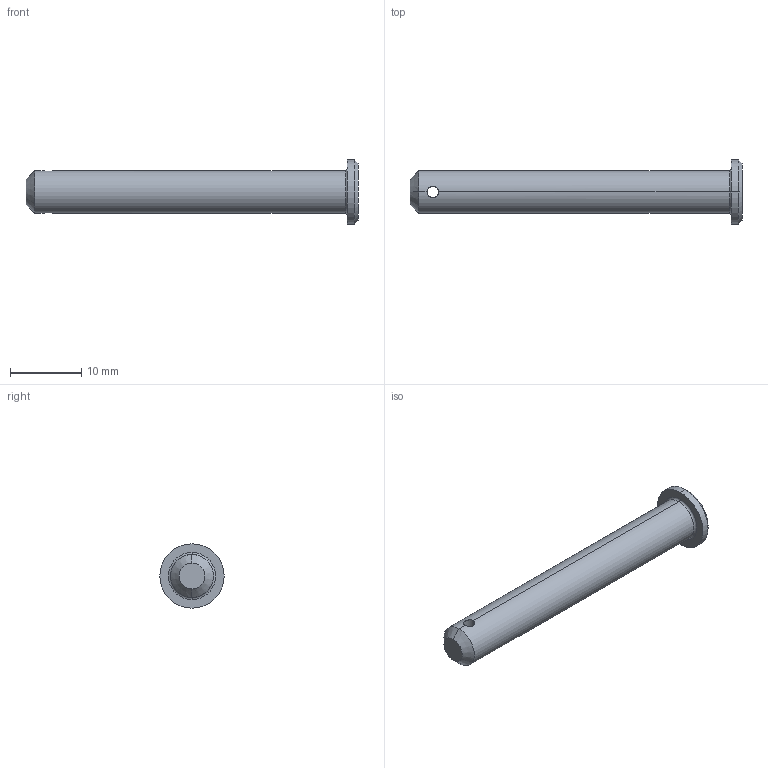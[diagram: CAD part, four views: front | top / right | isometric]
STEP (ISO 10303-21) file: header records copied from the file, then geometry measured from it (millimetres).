
FILE_DESCRIPTION (( 'STEP AP203' ), '1' );
FILE_NAME ('Wiberger-sms2360_6x45.step', '2012-10-09T08:58:35', ( 'Magnus' ), ( 'Wiberger' ), 'SwSTEP 2.0', 'SolidWorks 2011', '' );
FILE_SCHEMA (( 'CONFIG_CONTROL_DESIGN' ));
Length unit declared in the file: millimetre
Products named in the file (1): Wiberger-sms2360_6x45
Bounding box: 46.5 x 9 x 9 mm (x, y, z)
Volume: 1341 mm3; surface area: 1017.3 mm2
Topology: 1 solids, 1 shells, 15 faces, 32 edges, 18 vertices
Faces by surface type: cylinder 6, cone 4, plane 3, torus 2
Entity records: 539 total; most frequent: CARTESIAN_POINT 130, DIRECTION 76, ORIENTED_EDGE 64, EDGE_CURVE 32, AXIS2_PLACEMENT_3D 32, VERTEX_POINT 18, EDGE_LOOP 16, CIRCLE 16
